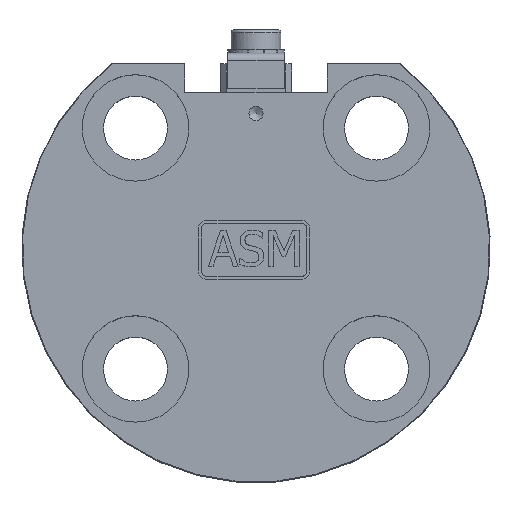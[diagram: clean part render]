
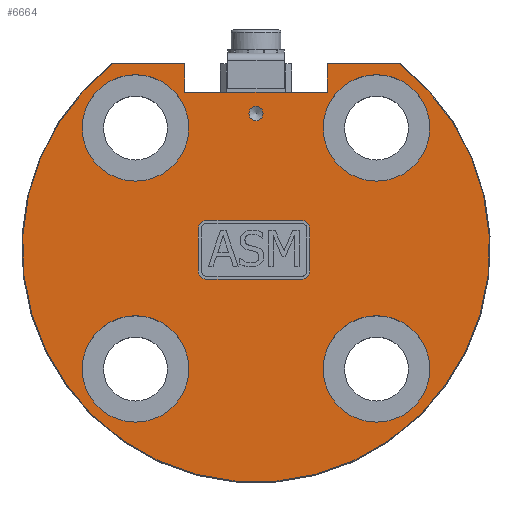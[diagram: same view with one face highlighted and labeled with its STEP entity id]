
A CAD part, top view. The second image highlights one B-rep face of the part: STEP entity #6664.
In plain terms, the highlighted planar face has unit normal (0, 0, 1).
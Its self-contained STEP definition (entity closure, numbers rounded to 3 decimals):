
#1590=CARTESIAN_POINT('',(-1.,19.0,23.));
#1591=VERTEX_POINT('',#1590);
#1592=CARTESIAN_POINT('',(0.,19.0,23.));
#1593=DIRECTION('',(0.0,0.0,1.0));
#1594=DIRECTION('',(1.0,0.0,0.0));
#1595=AXIS2_PLACEMENT_3D('',#1592,#1593,#1594);
#1596=CIRCLE('',#1595,1.0);
#1597=EDGE_CURVE('',#1591,#1591,#1596,.T.);
#1617=CARTESIAN_POINT('',(10.,22.0,23.));
#1618=VERTEX_POINT('',#1617);
#1625=CARTESIAN_POINT('',(10.,26.0,23.));
#1626=VERTEX_POINT('',#1625);
#1627=CARTESIAN_POINT('',(10.,22.0,23.));
#1628=DIRECTION('',(0.0,1.0,0.0));
#1629=VECTOR('',#1628,4.0);
#1630=LINE('',#1627,#1629);
#1631=EDGE_CURVE('',#1618,#1626,#1630,.T.);
#1934=CARTESIAN_POINT('',(-10.,26.0,23.));
#1935=VERTEX_POINT('',#1934);
#1942=CARTESIAN_POINT('',(-10.,22.0,23.));
#1943=VERTEX_POINT('',#1942);
#1944=CARTESIAN_POINT('',(-10.,26.0,23.));
#1945=DIRECTION('',(0.0,-1.0,0.0));
#1946=VECTOR('',#1945,4.0);
#1947=LINE('',#1944,#1946);
#1948=EDGE_CURVE('',#1935,#1943,#1947,.T.);
#1968=CARTESIAN_POINT('',(-10.,22.0,23.));
#1969=DIRECTION('',(1.0,0.0,0.0));
#1970=VECTOR('',#1969,20.0);
#1971=LINE('',#1968,#1970);
#1972=EDGE_CURVE('',#1943,#1618,#1971,.T.);
#2257=CARTESIAN_POINT('',(16.971,-9.471,23.));
#2258=VERTEX_POINT('',#2257);
#2259=CARTESIAN_POINT('',(16.971,-16.971,23.));
#2260=DIRECTION('',(0.0,0.0,1.0));
#2261=DIRECTION('',(0.0,-1.0,0.0));
#2262=AXIS2_PLACEMENT_3D('',#2259,#2260,#2261);
#2263=CIRCLE('',#2262,7.5);
#2264=EDGE_CURVE('',#2258,#2258,#2263,.T.);
#2359=CARTESIAN_POINT('',(-9.471,-16.971,23.));
#2360=VERTEX_POINT('',#2359);
#2361=CARTESIAN_POINT('',(-16.971,-16.971,23.));
#2362=DIRECTION('',(0.0,0.0,1.0));
#2363=DIRECTION('',(-1.0,0.0,0.0));
#2364=AXIS2_PLACEMENT_3D('',#2361,#2362,#2363);
#2365=CIRCLE('',#2364,7.5);
#2366=EDGE_CURVE('',#2360,#2360,#2365,.T.);
#2461=CARTESIAN_POINT('',(-16.971,9.471,23.));
#2462=VERTEX_POINT('',#2461);
#2463=CARTESIAN_POINT('',(-16.971,16.971,23.));
#2464=DIRECTION('',(0.0,0.0,1.0));
#2465=DIRECTION('',(0.0,1.0,0.0));
#2466=AXIS2_PLACEMENT_3D('',#2463,#2464,#2465);
#2467=CIRCLE('',#2466,7.5);
#2468=EDGE_CURVE('',#2462,#2462,#2467,.T.);
#2563=CARTESIAN_POINT('',(9.471,16.971,23.));
#2564=VERTEX_POINT('',#2563);
#2565=CARTESIAN_POINT('',(16.971,16.971,23.));
#2566=DIRECTION('',(0.0,0.0,1.0));
#2567=DIRECTION('',(1.0,0.0,0.0));
#2568=AXIS2_PLACEMENT_3D('',#2565,#2566,#2567);
#2569=CIRCLE('',#2568,7.5);
#2570=EDGE_CURVE('',#2564,#2564,#2569,.T.);
#6453=CARTESIAN_POINT('',(20.16,26.0,23.));
#6454=VERTEX_POINT('',#6453);
#6470=CARTESIAN_POINT('',(20.16,26.0,23.));
#6471=DIRECTION('',(-1.0,0.0,0.0));
#6472=VECTOR('',#6471,10.16);
#6473=LINE('',#6470,#6472);
#6474=EDGE_CURVE('',#6454,#1626,#6473,.T.);
#6518=CARTESIAN_POINT('',(-20.16,26.0,23.));
#6519=VERTEX_POINT('',#6518);
#6526=CARTESIAN_POINT('',(-10.,26.0,23.));
#6527=DIRECTION('',(-1.0,0.0,0.0));
#6528=VECTOR('',#6527,10.16);
#6529=LINE('',#6526,#6528);
#6530=EDGE_CURVE('',#1935,#6519,#6529,.T.);
#6555=CARTESIAN_POINT('',(0.,0.,23.));
#6556=DIRECTION('',(0.,0.,1.));
#6557=DIRECTION('',(0.613,-0.79,0.));
#6558=AXIS2_PLACEMENT_3D('',#6555,#6556,#6557);
#6559=CIRCLE('',#6558,32.9);
#6560=EDGE_CURVE('',#6519,#6454,#6559,.T.);
#6566=CARTESIAN_POINT('',(36.375,26.,23.));
#6567=DIRECTION('',(0.0,0.0,-1.0));
#6568=DIRECTION('',(-1.0,0.0,0.0));
#6569=AXIS2_PLACEMENT_3D('',#6566,#6567,#6568);
#6570=PLANE('',#6569);
#6571=ORIENTED_EDGE('',*,*,#6560,.T.);
#6572=ORIENTED_EDGE('',*,*,#6474,.T.);
#6573=ORIENTED_EDGE('',*,*,#1631,.F.);
#6574=ORIENTED_EDGE('',*,*,#1972,.F.);
#6575=ORIENTED_EDGE('',*,*,#1948,.F.);
#6576=ORIENTED_EDGE('',*,*,#6530,.T.);
#6577=EDGE_LOOP('',(#6571,#6572,#6573,#6574,#6575,#6576));
#6578=FACE_OUTER_BOUND('',#6577,.T.);
#6579=ORIENTED_EDGE('',*,*,#1597,.F.);
#6580=EDGE_LOOP('',(#6579));
#6581=FACE_BOUND('',#6580,.T.);
#6582=ORIENTED_EDGE('',*,*,#2264,.F.);
#6583=EDGE_LOOP('',(#6582));
#6584=FACE_BOUND('',#6583,.T.);
#6585=ORIENTED_EDGE('',*,*,#2366,.F.);
#6586=EDGE_LOOP('',(#6585));
#6587=FACE_BOUND('',#6586,.T.);
#6588=ORIENTED_EDGE('',*,*,#2468,.F.);
#6589=EDGE_LOOP('',(#6588));
#6590=FACE_BOUND('',#6589,.T.);
#6591=ORIENTED_EDGE('',*,*,#2570,.F.);
#6592=EDGE_LOOP('',(#6591));
#6593=FACE_BOUND('',#6592,.T.);
#6594=CARTESIAN_POINT('',(-8.126,-3.133,23.));
#6595=VERTEX_POINT('',#6594);
#6596=CARTESIAN_POINT('',(-8.126,2.758,23.));
#6597=VERTEX_POINT('',#6596);
#6598=CARTESIAN_POINT('',(-8.126,-3.133,23.));
#6599=DIRECTION('',(0.0,1.0,0.0));
#6600=VECTOR('',#6599,5.892);
#6601=LINE('',#6598,#6600);
#6602=EDGE_CURVE('',#6595,#6597,#6601,.T.);
#6603=ORIENTED_EDGE('',*,*,#6602,.T.);
#6604=CARTESIAN_POINT('',(-6.903,3.981,23.));
#6605=VERTEX_POINT('',#6604);
#6606=CARTESIAN_POINT('',(-6.903,2.758,23.));
#6607=DIRECTION('',(0.,0.,-1.0));
#6608=DIRECTION('',(0.,1.0,0.));
#6609=AXIS2_PLACEMENT_3D('',#6606,#6607,#6608);
#6610=CIRCLE('',#6609,1.223);
#6611=EDGE_CURVE('',#6597,#6605,#6610,.T.);
#6612=ORIENTED_EDGE('',*,*,#6611,.T.);
#6613=CARTESIAN_POINT('',(6.36,3.981,23.));
#6614=VERTEX_POINT('',#6613);
#6615=CARTESIAN_POINT('',(-6.903,3.981,23.));
#6616=DIRECTION('',(1.0,0.0,0.0));
#6617=VECTOR('',#6616,13.263);
#6618=LINE('',#6615,#6617);
#6619=EDGE_CURVE('',#6605,#6614,#6618,.T.);
#6620=ORIENTED_EDGE('',*,*,#6619,.T.);
#6621=CARTESIAN_POINT('',(7.582,2.758,23.));
#6622=VERTEX_POINT('',#6621);
#6623=CARTESIAN_POINT('',(6.36,2.758,23.));
#6624=DIRECTION('',(0.,0.,-1.0));
#6625=DIRECTION('',(1.0,0.,0.));
#6626=AXIS2_PLACEMENT_3D('',#6623,#6624,#6625);
#6627=CIRCLE('',#6626,1.223);
#6628=EDGE_CURVE('',#6614,#6622,#6627,.T.);
#6629=ORIENTED_EDGE('',*,*,#6628,.T.);
#6630=CARTESIAN_POINT('',(7.582,-3.133,23.));
#6631=VERTEX_POINT('',#6630);
#6632=CARTESIAN_POINT('',(7.582,2.758,23.));
#6633=DIRECTION('',(0.0,-1.0,0.0));
#6634=VECTOR('',#6633,5.892);
#6635=LINE('',#6632,#6634);
#6636=EDGE_CURVE('',#6622,#6631,#6635,.T.);
#6637=ORIENTED_EDGE('',*,*,#6636,.T.);
#6638=CARTESIAN_POINT('',(6.36,-4.356,23.));
#6639=VERTEX_POINT('',#6638);
#6640=CARTESIAN_POINT('',(6.36,-3.133,23.));
#6641=DIRECTION('',(0.,0.,-1.0));
#6642=DIRECTION('',(0.,-1.0,0.));
#6643=AXIS2_PLACEMENT_3D('',#6640,#6641,#6642);
#6644=CIRCLE('',#6643,1.223);
#6645=EDGE_CURVE('',#6631,#6639,#6644,.T.);
#6646=ORIENTED_EDGE('',*,*,#6645,.T.);
#6647=CARTESIAN_POINT('',(-6.903,-4.356,23.));
#6648=VERTEX_POINT('',#6647);
#6649=CARTESIAN_POINT('',(6.36,-4.356,23.));
#6650=DIRECTION('',(-1.0,0.0,0.0));
#6651=VECTOR('',#6650,13.263);
#6652=LINE('',#6649,#6651);
#6653=EDGE_CURVE('',#6639,#6648,#6652,.T.);
#6654=ORIENTED_EDGE('',*,*,#6653,.T.);
#6655=CARTESIAN_POINT('',(-6.903,-3.133,23.));
#6656=DIRECTION('',(0.,0.,-1.0));
#6657=DIRECTION('',(-1.0,0.,0.));
#6658=AXIS2_PLACEMENT_3D('',#6655,#6656,#6657);
#6659=CIRCLE('',#6658,1.223);
#6660=EDGE_CURVE('',#6648,#6595,#6659,.T.);
#6661=ORIENTED_EDGE('',*,*,#6660,.T.);
#6662=EDGE_LOOP('',(#6603,#6612,#6620,#6629,#6637,#6646,#6654,#6661));
#6663=FACE_BOUND('',#6662,.T.);
#6664=ADVANCED_FACE('',(#6578,#6581,#6584,#6587,#6590,#6593,#6663),#6570,.F.);
